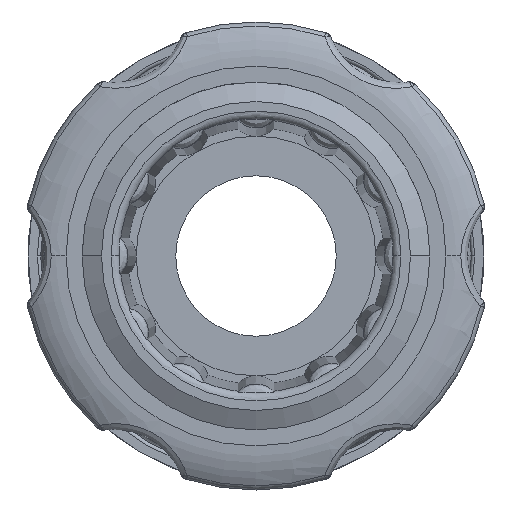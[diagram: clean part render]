
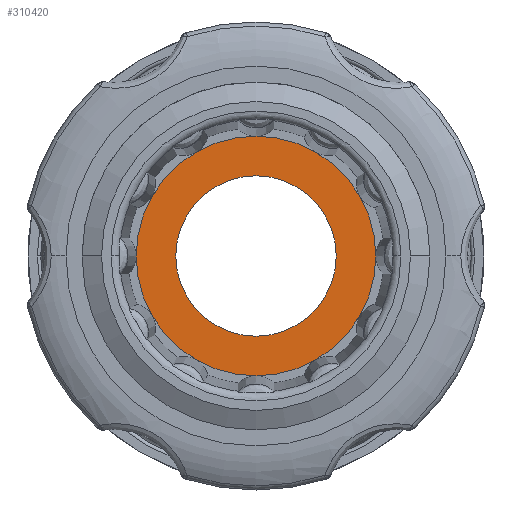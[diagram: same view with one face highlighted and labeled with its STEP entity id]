
A CAD part, left-side view. The second image highlights one B-rep face of the part: STEP entity #310420.
In plain terms, the highlighted planar face has unit normal (-1, 0, 0).
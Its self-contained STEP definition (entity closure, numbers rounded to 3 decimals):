
#309940=CARTESIAN_POINT('',(52.601,32.387,0.));
#309950=VERTEX_POINT('',#309940);
#310030=CARTESIAN_POINT('',(52.601,48.387,0.));
#310040=VERTEX_POINT('',#310030);
#310070=CARTESIAN_POINT('',(52.601,40.387,0.));
#310080=DIRECTION('',(1.,0.,0.));
#310090=DIRECTION('',(0.,1.,0.));
#310100=AXIS2_PLACEMENT_3D('',#310070,#310080,#310090);
#310110=CIRCLE('',#310100,8.);
#310120=EDGE_CURVE('',#309950,#310040,#310110,.T.);
#310170=CARTESIAN_POINT('',(52.601,44.387,0.));
#310180=DIRECTION('',(1.,0.,0.));
#310190=DIRECTION('',(0.,-1.,0.));
#310200=AXIS2_PLACEMENT_3D('',#310170,#310180,#310190);
#310210=PLANE('',#310200);
#310220=EDGE_CURVE('',#310040,#309950,#310110,.T.);
#310230=ORIENTED_EDGE('',*,*,#310220,.F.);
#310240=ORIENTED_EDGE('',*,*,#310120,.F.);
#310250=EDGE_LOOP('',(#310240,#310230));
#310260=FACE_OUTER_BOUND('',#310250,.T.);
#310270=CARTESIAN_POINT('',(52.601,40.387,0.));
#310280=DIRECTION('',(1.,0.,0.));
#310290=DIRECTION('',(0.,0.,-1.));
#310300=AXIS2_PLACEMENT_3D('',#310270,#310280,#310290);
#310310=CIRCLE('',#310300,4.75);
#310320=CARTESIAN_POINT('',(52.601,40.387,-4.75));
#310330=VERTEX_POINT('',#310320);
#310340=CARTESIAN_POINT('',(52.601,40.387,4.75));
#310350=VERTEX_POINT('',#310340);
#310360=EDGE_CURVE('',#310330,#310350,#310310,.T.);
#310370=ORIENTED_EDGE('',*,*,#310360,.T.);
#310380=EDGE_CURVE('',#310350,#310330,#310310,.T.);
#310390=ORIENTED_EDGE('',*,*,#310380,.T.);
#310400=EDGE_LOOP('',(#310390,#310370));
#310410=FACE_BOUND('',#310400,.T.);
#310420=ADVANCED_FACE('',(#310260,#310410),#310210,.F.);
